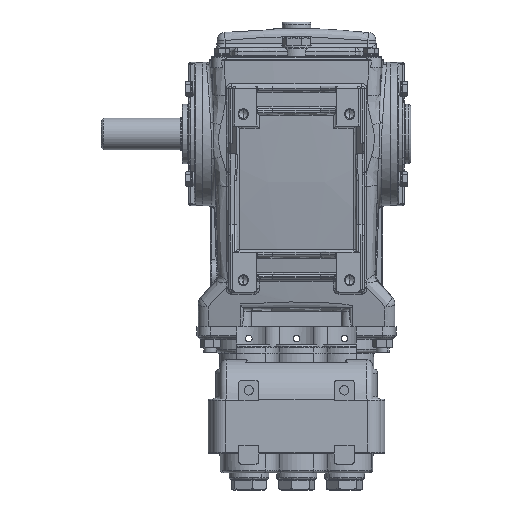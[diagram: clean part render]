
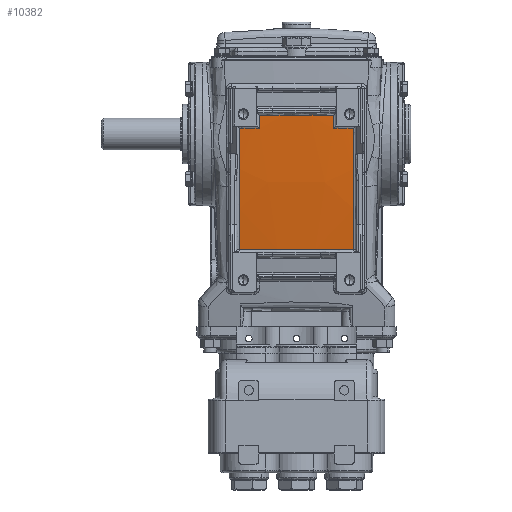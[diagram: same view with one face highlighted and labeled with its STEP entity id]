
A CAD part, front view. The second image highlights one B-rep face of the part: STEP entity #10382.
In plain terms, the highlighted spherical face has radius 1000 mm.
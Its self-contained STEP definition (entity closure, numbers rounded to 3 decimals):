
#10382 = ADVANCED_FACE ( 'NONE', ( #178848 ), #178830, .T. ) ;
#15775 = ORIENTED_EDGE ( 'NONE', *, *, #174352, .T. ) ;
#15777 = ORIENTED_EDGE ( 'NONE', *, *, #174354, .T. ) ;
#15779 = ORIENTED_EDGE ( 'NONE', *, *, #174351, .T. ) ;
#15781 = ORIENTED_EDGE ( 'NONE', *, *, #174355, .T. ) ;
#15783 = ORIENTED_EDGE ( 'NONE', *, *, #174357, .T. ) ;
#15785 = ORIENTED_EDGE ( 'NONE', *, *, #174359, .T. ) ;
#15787 = ORIENTED_EDGE ( 'NONE', *, *, #174361, .T. ) ;
#15789 = ORIENTED_EDGE ( 'NONE', *, *, #174362, .T. ) ;
#32043 = CARTESIAN_POINT ( 'NONE',  ( -27.944, -57.255, 4.178 ) ) ;
#32046 = CARTESIAN_POINT ( 'NONE',  ( -42.914, -56.723, 4.178 ) ) ;
#32047 = CARTESIAN_POINT ( 'NONE',  ( -42.914, -44.396, -86.641 ) ) ;
#32050 = CARTESIAN_POINT ( 'NONE',  ( 42.914, -44.396, -86.641 ) ) ;
#32051 = CARTESIAN_POINT ( 'NONE',  ( 42.914, -56.723, 4.178 ) ) ;
#32054 = CARTESIAN_POINT ( 'NONE',  ( 27.944, -57.255, 4.178 ) ) ;
#32055 = CARTESIAN_POINT ( 'NONE',  ( 27.944, -58.095, 14.158 ) ) ;
#32058 = CARTESIAN_POINT ( 'NONE',  ( -27.944, -58.095, 14.158 ) ) ;
#107708 = CARTESIAN_POINT ( 'NONE',  ( -42.914, 938.4, 93. ) ) ;
#107709 = DIRECTION ( 'NONE',  ( 1., 0., 0. ) ) ;
#107710 = DIRECTION ( 'NONE',  ( 0., 0., -1. ) ) ;
#107711 = CARTESIAN_POINT ( 'NONE',  ( 0., 938.4, 4.178 ) ) ;
#107712 = DIRECTION ( 'NONE',  ( 0., 0., -1. ) ) ;
#107713 = DIRECTION ( 'NONE',  ( 1., 0., 0. ) ) ;
#107714 = CARTESIAN_POINT ( 'NONE',  ( 0., 938.4, -86.641 ) ) ;
#107715 = DIRECTION ( 'NONE',  ( 0., 0., 1. ) ) ;
#107716 = DIRECTION ( 'NONE',  ( 1., 0., 0. ) ) ;
#107717 = CARTESIAN_POINT ( 'NONE',  ( 42.914, 938.4, 93. ) ) ;
#107718 = DIRECTION ( 'NONE',  ( -1., 0., 0. ) ) ;
#107719 = DIRECTION ( 'NONE',  ( 0., 0., 1. ) ) ;
#107720 = CARTESIAN_POINT ( 'NONE',  ( 0., 938.4, 4.178 ) ) ;
#107721 = DIRECTION ( 'NONE',  ( 0., 0., -1. ) ) ;
#107722 = DIRECTION ( 'NONE',  ( 1., 0., 0. ) ) ;
#107723 = CARTESIAN_POINT ( 'NONE',  ( 27.944, 938.4, 93. ) ) ;
#107724 = DIRECTION ( 'NONE',  ( -1., 0., 0. ) ) ;
#107725 = DIRECTION ( 'NONE',  ( 0., -1., 0. ) ) ;
#107726 = CARTESIAN_POINT ( 'NONE',  ( 0., 938.4, 14.158 ) ) ;
#107727 = DIRECTION ( 'NONE',  ( 0., 0., -1. ) ) ;
#107728 = DIRECTION ( 'NONE',  ( 1., 0., 0. ) ) ;
#107729 = CARTESIAN_POINT ( 'NONE',  ( -27.944, 938.4, 93. ) ) ;
#107730 = DIRECTION ( 'NONE',  ( 1., 0., 0. ) ) ;
#107731 = DIRECTION ( 'NONE',  ( 0., 1., 0. ) ) ;
#112747 = AXIS2_PLACEMENT_3D ( 'NONE', #107708, #107709, #107710 ) ;
#112770 = AXIS2_PLACEMENT_3D ( 'NONE', #107720, #107721, #107722 ) ;
#112771 = AXIS2_PLACEMENT_3D ( 'NONE', #107717, #107718, #107719 ) ;
#112772 = AXIS2_PLACEMENT_3D ( 'NONE', #107714, #107715, #107716 ) ;
#112773 = AXIS2_PLACEMENT_3D ( 'NONE', #107711, #107712, #107713 ) ;
#112774 = AXIS2_PLACEMENT_3D ( 'NONE', #107723, #107724, #107725 ) ;
#112775 = AXIS2_PLACEMENT_3D ( 'NONE', #107726, #107727, #107728 ) ;
#112776 = AXIS2_PLACEMENT_3D ( 'NONE', #107729, #107730, #107731 ) ;
#132127 = VERTEX_POINT ( 'NONE', #32043 ) ;
#132131 = VERTEX_POINT ( 'NONE', #32046 ) ;
#132133 = VERTEX_POINT ( 'NONE', #32047 ) ;
#132137 = VERTEX_POINT ( 'NONE', #32050 ) ;
#132139 = VERTEX_POINT ( 'NONE', #32051 ) ;
#132143 = VERTEX_POINT ( 'NONE', #32054 ) ;
#132144 = VERTEX_POINT ( 'NONE', #32055 ) ;
#132149 = VERTEX_POINT ( 'NONE', #32058 ) ;
#169250 = CIRCLE ( 'NONE', #112747, 999.079 ) ;
#169252 = CIRCLE ( 'NONE', #112773, 996.047 ) ;
#169254 = CIRCLE ( 'NONE', #112772, 983.732 ) ;
#169256 = CIRCLE ( 'NONE', #112771, 999.079 ) ;
#169258 = CIRCLE ( 'NONE', #112770, 996.047 ) ;
#169260 = CIRCLE ( 'NONE', #112774, 999.609 ) ;
#169262 = CIRCLE ( 'NONE', #112775, 996.887 ) ;
#169264 = CIRCLE ( 'NONE', #112776, 999.609 ) ;
#174351 = EDGE_CURVE ( 'NONE', #132131, #132133, #169250, .T. ) ;
#174352 = EDGE_CURVE ( 'NONE', #132127, #132131, #169252, .T. ) ;
#174354 = EDGE_CURVE ( 'NONE', #132133, #132137, #169254, .T. ) ;
#174355 = EDGE_CURVE ( 'NONE', #132137, #132139, #169256, .T. ) ;
#174357 = EDGE_CURVE ( 'NONE', #132139, #132143, #169258, .T. ) ;
#174359 = EDGE_CURVE ( 'NONE', #132143, #132144, #169260, .T. ) ;
#174361 = EDGE_CURVE ( 'NONE', #132144, #132149, #169262, .T. ) ;
#174362 = EDGE_CURVE ( 'NONE', #132149, #132127, #169264, .T. ) ;
#178376 = EDGE_LOOP ( 'NONE', ( #15775, #15779, #15777, #15781, #15783, #15785, #15787, #15789 ) ) ;
#178830 = SPHERICAL_SURFACE ( 'NONE', #179000, 1000. ) ;
#178848 = FACE_OUTER_BOUND ( 'NONE', #178376, .T. ) ;
#179000 = AXIS2_PLACEMENT_3D ( 'NONE', #202945, #202947, #202948 ) ;
#202945 = CARTESIAN_POINT ( 'NONE',  ( 0., 938.4, 93. ) ) ;
#202947 = DIRECTION ( 'NONE',  ( 0., 0.259, -0.966 ) ) ;
#202948 = DIRECTION ( 'NONE',  ( 0., -0.966, -0.259 ) ) ;
